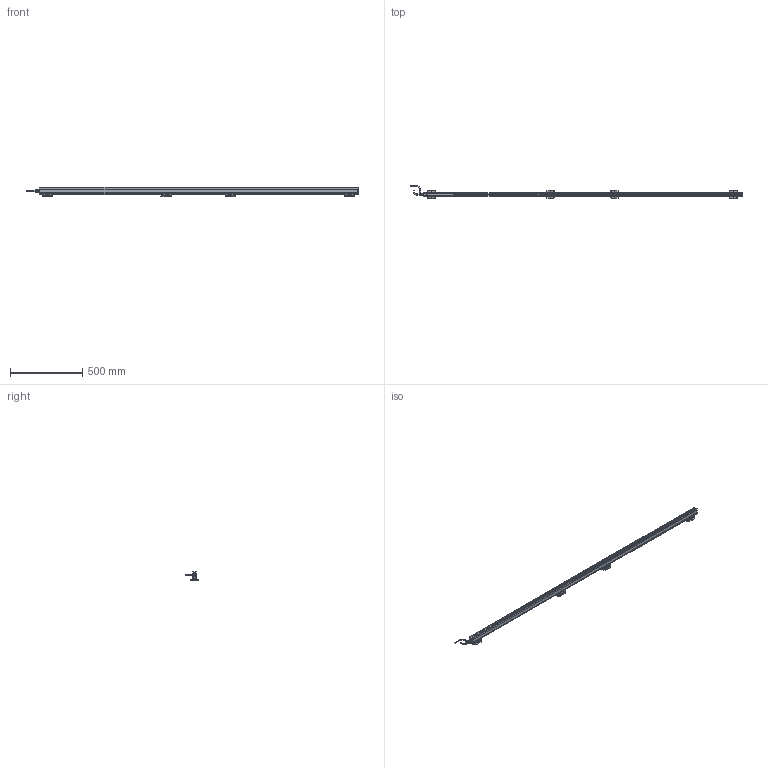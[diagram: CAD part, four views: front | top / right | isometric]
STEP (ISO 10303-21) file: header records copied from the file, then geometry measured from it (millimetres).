
FILE_DESCRIPTION(('Bauteilbeschreibung','HiCAD-Model','HiCAD-STEP-TRANSLATION','Bauteilbeschreibung'),'2;1');
FILE_NAME('PERFORMAXIQEASY_2130-2220_3D.STP','2014-03-05T11:55:24+00:00',('Konstrukteur'),('Konstrukteur Firma GmbH'),' HiCAD 2011, Step 1600.0 ','HiCAD 2011','confidential');
FILE_SCHEMA(('AUTOMOTIVE_DESIGN { 1 2 10303 214 0 1 1 1 }'));
Products named in the file (46): PERFORMAXIQEASY_2130_2220_3D; A_PERFORMAX IQ EASY 2130_2220; A_PERFORMAX IQ EASY SPEED; A_CAP DE; A_CAP CE_5; LED_2C_3MM; LED02C03MM; A519020315_CONNECTOR APPLIANCE; A_INSERT; A_CONTACTS; A_HOUSING; A_PROFILE; A_POTTING; PIN; PIN0; A532000100_BRACKET BARS_ MOUNT; A_SIDE PIECE; A0SIDE0PIECE; A_BRACKET SMALL; A_SLIDE PIECE; A5320001000BRACKET0BARS00MOUNT; A0SIDE0PIECE0; A0SIDE0PIECE1; A0BRACKET0SMALL; A0SLIDE0PIECE; A5320001000BRACKET0BARS00MOUNT0; A0SIDE0PIECE2; A0SIDE0PIECE3; A0BRACKET0SMALL0; A0SLIDE0PIECE0; A0SIDE0PIECE4; A0SIDE0PIECE5; A0BRACKET0SMALL1; A0SLIDE0PIECE1; A_CONNECTOR STRAIGHT; EXTRUDED SOLID_0; DRAAD GEBOGEN; REVOLVED SOLID_1; REVOLVED SOLID_3; A_CONNECTOR ANGLED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
Assembly tree (45 placements, depth 5):
  PERFORMAXIQEASY_2130_2220_3D
    A_PERFORMAX IQ EASY 2130_2220
      A_PERFORMAX IQ EASY SPEED
        A_CAP DE
        A_CAP CE_5
        LED_2C_3MM
        LED02C03MM
        A519020315_CONNECTOR APPLIANCE
          A_INSERT
          A_CONTACTS
          A_HOUSING
        A_PROFILE
        A_POTTING
        PIN
        PIN0
      A532000100_BRACKET BARS_ MOUNT
        A_SIDE PIECE
        A0SIDE0PIECE
        A_BRACKET SMALL
        A_SLIDE PIECE
      A5320001000BRACKET0BARS00MOUNT
        A0SIDE0PIECE0
        A0SIDE0PIECE1
        A0BRACKET0SMALL
        A0SLIDE0PIECE
      A5320001000BRACKET0BARS00MOUNT0
        A0SIDE0PIECE2
        A0SIDE0PIECE3
        A0BRACKET0SMALL0
        A0SLIDE0PIECE0
      A5320001000BRACKET0BARS00MOUNT0
        A0SIDE0PIECE4
        A0SIDE0PIECE5
        A0BRACKET0SMALL1
        A0SLIDE0PIECE1
      A_CONNECTOR STRAIGHT
        EXTRUDED SOLID_0
        DRAAD GEBOGEN
        REVOLVED SOLID_1
        REVOLVED SOLID_3
      A_CONNECTOR ANGLED
        REVOLVED0SOLID01
        EXTRUDED0SOLID00
        C_EDGE SWEEP_0
        REVOLVED SOLID_2
        REVOLVED0SOLID03
Bounding box: 2297.89 x 84.24 x 63.13 mm (x, y, z)
Volume: 2303499.4 mm3; surface area: 573788.4 mm2
Topology: 41 solids, 41 shells, 3447 faces, 8839 edges, 5258 vertices
Faces by surface type: cylinder 1457, plane 1315, sphere 222, torus 205, bspline 168, cone 80
Full cylindrical faces by diameter (mm): 0.8 x10, 1 x5, 2.387 x8, 3 x19, 3.1 x1, 4.2 x2, 5 x4, 5.5 x20, 8 x2, 8.2 x1, 8.4 x2, 8.945 x1, 9 x2, 10.2 x1, 10.5 x3, 11 x1, 12 x3, 12.8 x1, 13.8 x4, 14.5 x3
Entity records: 159221 total; most frequent: CARTESIAN_POINT 37152, DIRECTION 17145, ORIENTED_EDGE 16748, EDGE_CURVE 8374, COLOUR_RGB 7959, PRESENTATION_STYLE_ASSIGNMENT 7959, OVER_RIDING_STYLED_ITEM 7923, CURVE_STYLE 7918
